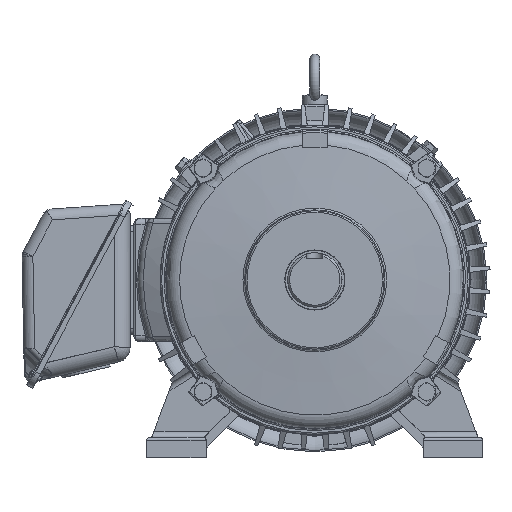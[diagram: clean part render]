
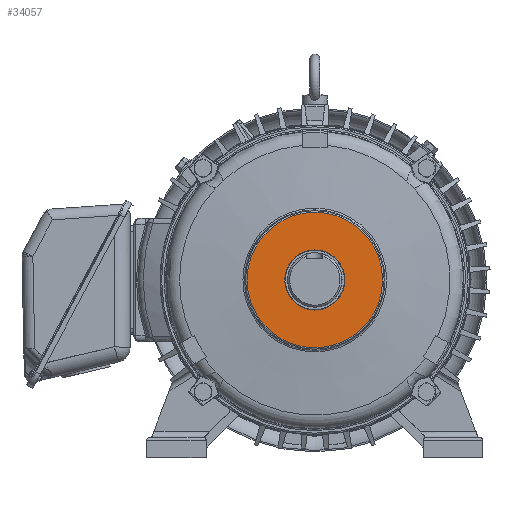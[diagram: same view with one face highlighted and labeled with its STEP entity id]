
A CAD part, front view. The second image highlights one B-rep face of the part: STEP entity #34057.
In plain terms, the highlighted planar face has unit normal (0, -1, 0).
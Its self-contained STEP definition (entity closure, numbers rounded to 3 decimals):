
#2045=CIRCLE('',#36525,68.581);
#2046=CIRCLE('',#36526,30.4);
#6966=ORIENTED_EDGE('',*,*,#14886,.T.);
#6967=ORIENTED_EDGE('',*,*,#14887,.F.);
#14886=EDGE_CURVE('',#19026,#19026,#2045,.F.);
#14887=EDGE_CURVE('',#19027,#19027,#2046,.T.);
#19026=VERTEX_POINT('',#55985);
#19027=VERTEX_POINT('',#55987);
#24656=EDGE_LOOP('',(#6966));
#24657=EDGE_LOOP('',(#6967));
#26928=FACE_BOUND('',#24656,.T.);
#26929=FACE_BOUND('',#24657,.T.);
#28801=PLANE('',#36524);
#34057=ADVANCED_FACE('',(#26928,#26929),#28801,.F.);
#36524=AXIS2_PLACEMENT_3D('',#55983,#41436,#41437);
#36525=AXIS2_PLACEMENT_3D('',#55984,#41438,#41439);
#36526=AXIS2_PLACEMENT_3D('',#55986,#41440,#41441);
#41436=DIRECTION('',(0.,1.,0.));
#41437=DIRECTION('',(-1.,0.,0.));
#41438=DIRECTION('',(0.,1.,0.));
#41439=DIRECTION('',(-1.,0.,0.));
#41440=DIRECTION('',(0.,-1.,0.));
#41441=DIRECTION('',(1.,0.,0.));
#55983=CARTESIAN_POINT('',(0.,0.,70.));
#55984=CARTESIAN_POINT('',(0.,0.,0.));
#55985=CARTESIAN_POINT('',(-68.581,0.,0.));
#55986=CARTESIAN_POINT('',(0.,0.,0.));
#55987=CARTESIAN_POINT('',(30.4,0.,0.));
